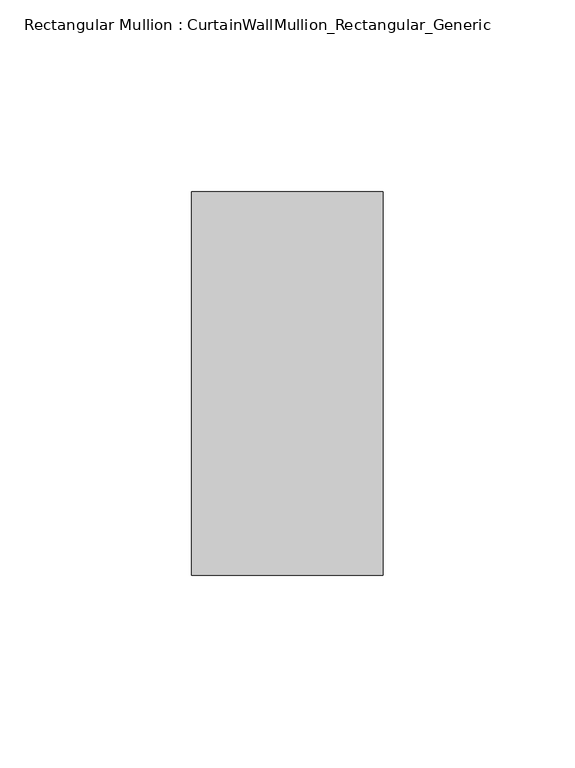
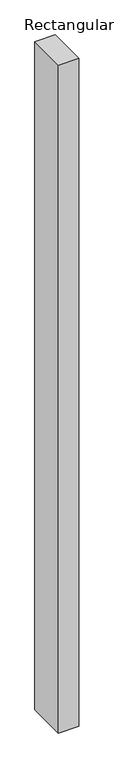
"""IFC4 building model written with IfcOpenShell, lengths in millimetres: member geometry, Rectangular Mullion : CurtainWallMullion_Rectangular_Generic."""

from ifc_helpers import new_model, si_unit, frame, origin, place, context, project, spatial, polyline, outline, extrude, source, transform, mapped, element, save


def rectangular_mullion_curtainwallmullion_rectangular_generic_afae33c0(model_context):
    return source(origin(), model_context, "Body", "SweptSolid", [
        extrude(outline(polyline([(0.0, 50.0), (0.0, -50.0), (-50.0, -50.0), (-50.0, 50.0), (0.0, 50.0)])), frame((0.0, 0.0, -1731.1111113), z_axis=(0.0, 0.0, 1.0), x_axis=(1.0, 0.0, 0.0)), (0.0, 0.0, 1.0), 1731.1111113),
    ])


if __name__ == "__main__":
    model = new_model("IFC4")
    model_context = context("Model", 3, world=origin())
    ifc_project = project(units=[si_unit("LENGTHUNIT", "METRE", prefix="MILLI")], contexts=[model_context])
    site = spatial("IfcSite", under=ifc_project)
    building = spatial("IfcBuilding", under=site)
    placement = place(None, origin())
    rectangular_mullion_curtainwallmullion_rectangular_generic_shape = rectangular_mullion_curtainwallmullion_rectangular_generic_afae33c0(model_context)
    element("IfcMember", 1, ObjectType="Rectangular Mullion : CurtainWallMullion_Rectangular_Generic", at=placement, inside=building, context=model_context, shape_type="MappedRepresentation", body=[
        mapped(rectangular_mullion_curtainwallmullion_rectangular_generic_shape, transform((0.0, 0.0, 0.0), x_axis=(1.0, 0.0, 0.0), y_axis=(0.0, 1.0, 0.0), z_axis=(0.0, 0.0, 1.0))),
    ])
    save(model, "model.ifc")
